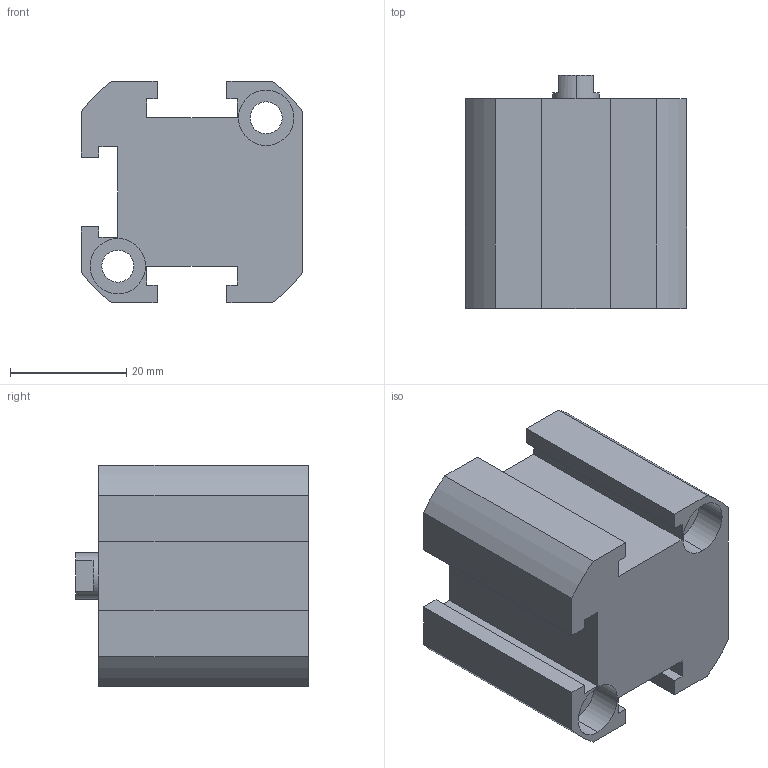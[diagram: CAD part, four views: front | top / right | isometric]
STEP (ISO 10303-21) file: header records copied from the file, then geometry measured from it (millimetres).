
FILE_DESCRIPTION (( 'STEP AP203' ), '1' );
FILE_NAME ('XC#2-20D-10.STEP', '2016-05-23T08:06:56', ( '' ), ( '' ), 'SwSTEP 2.0', 'SolidWorks 2014', '' );
FILE_SCHEMA (( 'CONFIG_CONTROL_DESIGN' ));
Length unit declared in the file: millimetre
Products named in the file (1): XC#2-20D-10
Bounding box: 38 x 40 x 38 mm (x, y, z)
Volume: 37437.6 mm3; surface area: 11600.1 mm2
Topology: 1 solids, 1 shells, 89 faces, 227 edges, 146 vertices
Faces by surface type: plane 44, cylinder 39, cone 6
Entity records: 2751 total; most frequent: DIRECTION 484, CARTESIAN_POINT 457, ORIENTED_EDGE 442, EDGE_CURVE 221, AXIS2_PLACEMENT_3D 173, VERTEX_POINT 146, VECTOR 138, LINE 138
